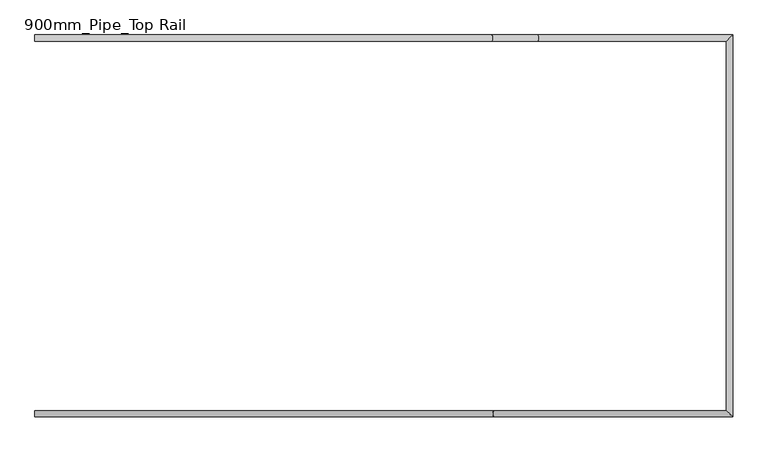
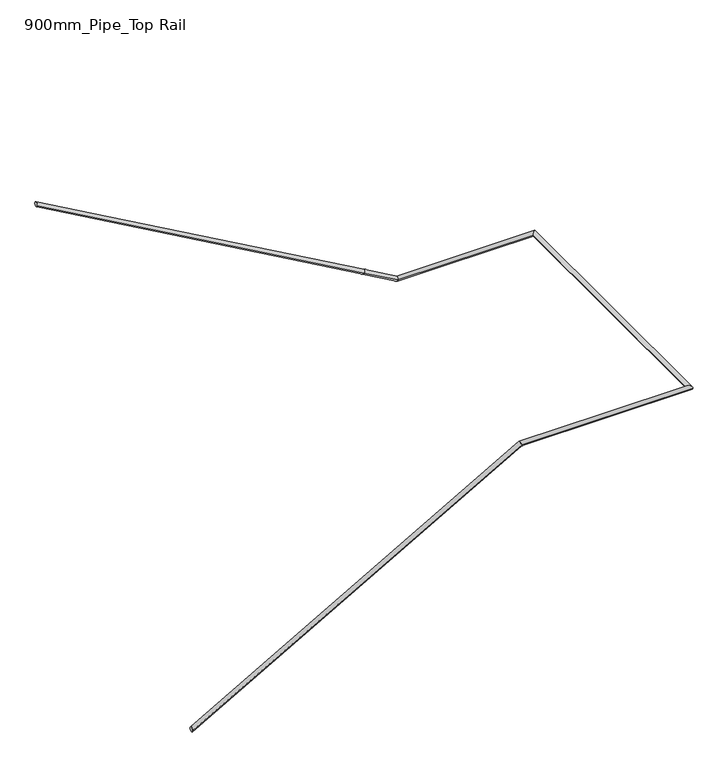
"""IFC4 building model written with IfcOpenShell, lengths in millimetres: railing geometry, 900mm_Pipe_Top Rail."""

from ifc_helpers import new_model, si_unit, frame, origin, place, context, project, spatial, circle_curve, ellipse_curve, source, transform, mapped, element, save
from ifc_brep_helpers import plane_surface, cylinder_surface, advanced_brep


def railing_900mm_pipe_top_rail_d99c33f4(model_context):
    return source(origin(), model_context, "Body", "AdvancedBrep", [
        advanced_brep(
        [(-801.4958562, -4563.9473686, 8557.451671), (-801.4958562, -4523.9473686, 8557.451671), (2203.7892028, -4563.9473686, 10265.0), (2203.7892028, -4523.9473686, 10265.0), (3768.1041438, -4563.9473686, 10265.0), (3728.1041438, -4523.9473686, 10265.0), (3768.1041438, -2065.2316761, 10265.0), (3728.1041438, -2105.2316761, 10265.0), (2493.2190848, -2065.2316761, 10265.0), (2493.2190848, -2105.2316761, 10265.0), (2188.6239556, -2065.2316761, 10438.0654143), (2188.6239556, -2105.2316761, 10438.0654143), (-801.4958562, -2065.2316761, 12136.9971256), (-801.4958562, -2105.2316761, 12136.9971256)],
        [
            (0, 1, ellipse_curve(frame((-801.4958562, -4543.9473686, 8557.451671), z_axis=(-1.0, 0.0, 0.0), x_axis=(0.0, 0.0, -1.0)), 23.0028744, 20.0)),
            (1, 0, ellipse_curve(frame((-801.4958562, -4543.9473686, 8557.451671), z_axis=(-1.0, 0.0, 0.0), x_axis=(0.0, 0.0, -1.0)), 23.0028744, 20.0)),
            (0, 2),
            (2, 3, ellipse_curve(frame((2203.7892028, -4543.9473686, 10265.0), z_axis=(-0.9668134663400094, 0.0, -0.2554833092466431), x_axis=(0.25548330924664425, 0.0, -0.9668134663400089)), 20.6865137, 20.0)),
            (3, 1),
            (3, 2, ellipse_curve(frame((2203.7892028, -4543.9473686, 10265.0), z_axis=(-0.9668134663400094, 0.0, -0.2554833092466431), x_axis=(0.25548330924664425, 0.0, -0.9668134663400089)), 20.6865137, 20.0)),
            (2, 4),
            (4, 5, ellipse_curve(frame((3748.1041438, -4543.9473686, 10265.0), z_axis=(-0.7071067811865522, -0.7071067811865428, 0.0), x_axis=(-0.7071067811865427, 0.7071067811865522, 0.0)), 28.2842712, 20.0)),
            (5, 3),
            (5, 4, ellipse_curve(frame((3748.1041438, -4543.9473686, 10265.0), z_axis=(-0.7071067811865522, -0.7071067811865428, 0.0), x_axis=(-0.7071067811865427, 0.7071067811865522, 0.0)), 28.2842712, 20.0)),
            (4, 6),
            (6, 7, ellipse_curve(frame((3748.1041438, -2085.2316761, 10265.0), z_axis=(0.7071067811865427, -0.7071067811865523, 0.0), x_axis=(-0.7071067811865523, -0.7071067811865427, 0.0)), 28.2842712, 20.0)),
            (7, 5),
            (7, 6, ellipse_curve(frame((3748.1041438, -2085.2316761, 10265.0), z_axis=(0.7071067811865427, -0.7071067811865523, 0.0), x_axis=(-0.7071067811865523, -0.7071067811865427, 0.0)), 28.2842712, 20.0)),
            (6, 8),
            (8, 9, ellipse_curve(frame((2493.2190848, -2085.2316761, 10265.0), z_axis=(0.9668134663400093, 0.0, -0.25548330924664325), x_axis=(0.25548330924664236, 0.0, 0.9668134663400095)), 20.6865137, 20.0)),
            (9, 7),
            (9, 8, ellipse_curve(frame((2493.2190848, -2085.2316761, 10265.0), z_axis=(0.9668134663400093, 0.0, -0.25548330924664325), x_axis=(0.25548330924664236, 0.0, 0.9668134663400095)), 20.6865137, 20.0)),
            (8, 10),
            (10, 11, circle_curve(frame((2188.6239556, -2085.2316761, 10438.0654143), z_axis=(0.8694565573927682, 0.0, -0.4940094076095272), x_axis=(0.0, -1.0, 0.0)), 20.0)),
            (11, 9),
            (11, 10, circle_curve(frame((2188.6239556, -2085.2316761, 10438.0654143), z_axis=(0.8694565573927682, 0.0, -0.4940094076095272), x_axis=(0.0, -1.0, 0.0)), 20.0)),
            (12, 13, ellipse_curve(frame((-801.4958562, -2085.2316761, 12136.9971256), z_axis=(-1.0, 0.0, 0.0), x_axis=(0.0, 0.0, -1.0)), 23.0028744, 20.0)),
            (13, 12, ellipse_curve(frame((-801.4958562, -2085.2316761, 12136.9971256), z_axis=(-1.0, 0.0, 0.0), x_axis=(0.0, 0.0, -1.0)), 23.0028744, 20.0)),
            (10, 12),
            (13, 11),
        ],
        [
            plane_surface(frame((-801.4958562, -4543.9473686, 8580.4545455), z_axis=(-1.0, 0.0, 0.0), x_axis=(0.0, 1.0, 0.0))),
            cylinder_surface(frame((-791.6156681, -4543.9473686, 8563.0654143), z_axis=(-0.8694565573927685, 0.0, -0.49400940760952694), x_axis=(0.0, 1.0, 0.0)), 20.0),
            cylinder_surface(frame((2198.5041438, -4543.9473686, 10265.0), z_axis=(-1.0, 0.0, 0.0), x_axis=(0.0, 1.0, 0.0)), 20.0),
            cylinder_surface(frame((3748.1041438, -4543.9473686, 10265.0), z_axis=(0.0, -1.0, 0.0), x_axis=(-1.0, 0.0, 0.0)), 20.0),
            cylinder_surface(frame((3748.1041438, -2085.2316761, 10265.0), z_axis=(1.0, 0.0, 0.0), x_axis=(0.0, -1.0, 0.0)), 20.0),
            cylinder_surface(frame((2488.6239556, -2085.2316761, 10267.6108689), z_axis=(0.8694565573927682, 0.0, -0.4940094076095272), x_axis=(0.0, -1.0, 0.0)), 20.0),
            plane_surface(frame((-801.4958562, -2085.2316761, 12160.0), z_axis=(-1.0, 0.0, 0.0), x_axis=(0.0, -1.0, 0.0))),
            cylinder_surface(frame((2188.6239556, -2085.2316761, 10438.0654143), z_axis=(0.869456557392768, 0.0, -0.49400940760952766), x_axis=(0.0, -1.0, 0.0)), 20.0),
        ],
        [
            (0, [[1, 2]]),
            (1, [[-1, 3, 4, 5]]),
            (1, [[-2, -5, 6, -3]]),
            (2, [[-4, 7, 8, 9]]),
            (2, [[-6, -9, 10, -7]]),
            (3, [[-8, 11, 12, 13]]),
            (3, [[-10, -13, 14, -11]]),
            (4, [[-12, 15, 16, 17]]),
            (4, [[-14, -17, 18, -15]]),
            (5, [[-16, 19, 20, 21]]),
            (5, [[-18, -21, 22, -19]]),
            (6, [[23, 24]]),
            (7, [[-20, 25, -24, 26]]),
            (7, [[-22, -26, -23, -25]]),
        ],
    ),
    ])


if __name__ == "__main__":
    model = new_model("IFC4")
    model_context = context("Model", 3, world=origin())
    ifc_project = project(units=[si_unit("LENGTHUNIT", "METRE", prefix="MILLI")], contexts=[model_context])
    site = spatial("IfcSite", under=ifc_project)
    building = spatial("IfcBuilding", under=site)
    placement = place(None, origin())
    railing_900mm_pipe_top_rail_shape = railing_900mm_pipe_top_rail_d99c33f4(model_context)
    element("IfcRailing", 1, ObjectType="900mm_Pipe_Top Rail", at=placement, inside=building, context=model_context, shape_type="MappedRepresentation", body=[
        mapped(railing_900mm_pipe_top_rail_shape, transform((0.0, 0.0, 0.0), x_axis=(1.0, 0.0, 0.0), y_axis=(0.0, 1.0, 0.0), z_axis=(0.0, 0.0, 1.0))),
    ])
    save(model, "model.ifc")
